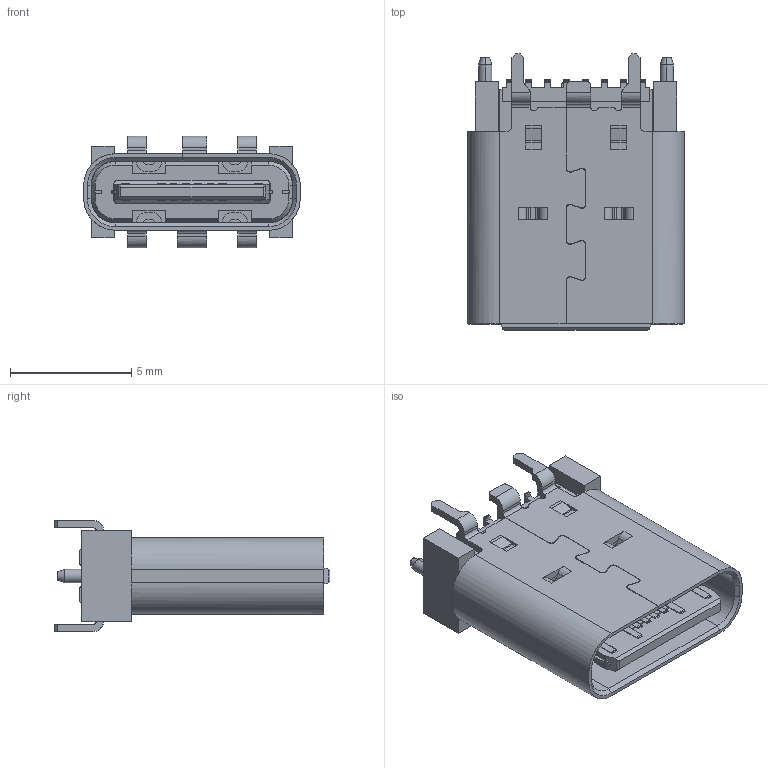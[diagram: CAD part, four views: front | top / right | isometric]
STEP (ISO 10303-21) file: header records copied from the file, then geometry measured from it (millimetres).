
FILE_DESCRIPTION (( 'STEP AP203' ), '1' );
FILE_NAME ('GT-USB-7051B.STEP', '2023-04-25T02:27:50', ( '' ), ( '' ), 'SwSTEP 2.0', 'SolidWorks 2023', '' );
FILE_SCHEMA (( 'CONFIG_CONTROL_DESIGN' ));
Length unit declared in the file: millimetre
Products named in the file (1): GT-USB-7051B
Bounding box: 8.94 x 11.4 x 4.6 mm (x, y, z)
Surface area: 1283.4 mm2 (no closed solid volume)
Topology: 0 solids, 409 shells, 2445 faces, 10127 edges, 7603 vertices
Faces by surface type: bspline 2285, plane 160
Entity records: 101981 total; most frequent: CARTESIAN_POINT 47750, ORIENTED_EDGE 15538, EDGE_CURVE 10159, B_SPLINE_CURVE_WITH_KNOTS 8874, VERTEX_POINT 7627, EDGE_LOOP 2604, FACE_OUTER_BOUND 2445, ADVANCED_FACE 2439
